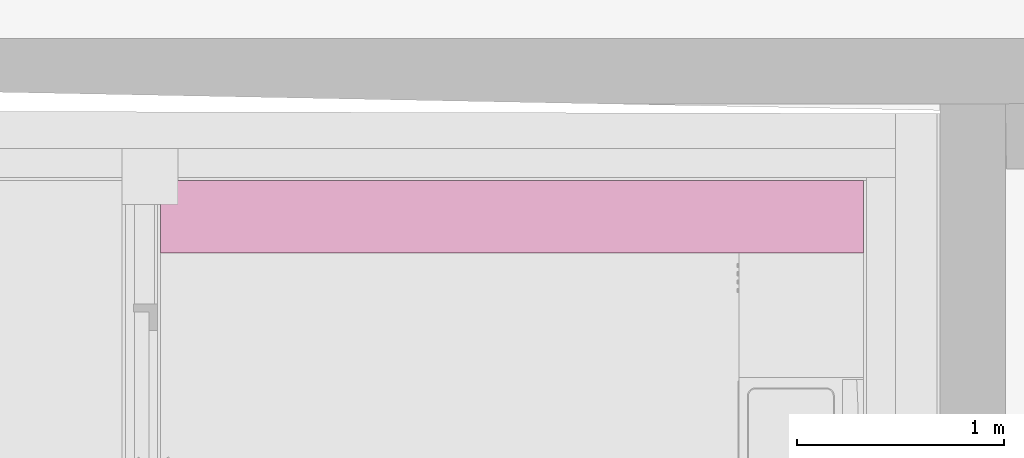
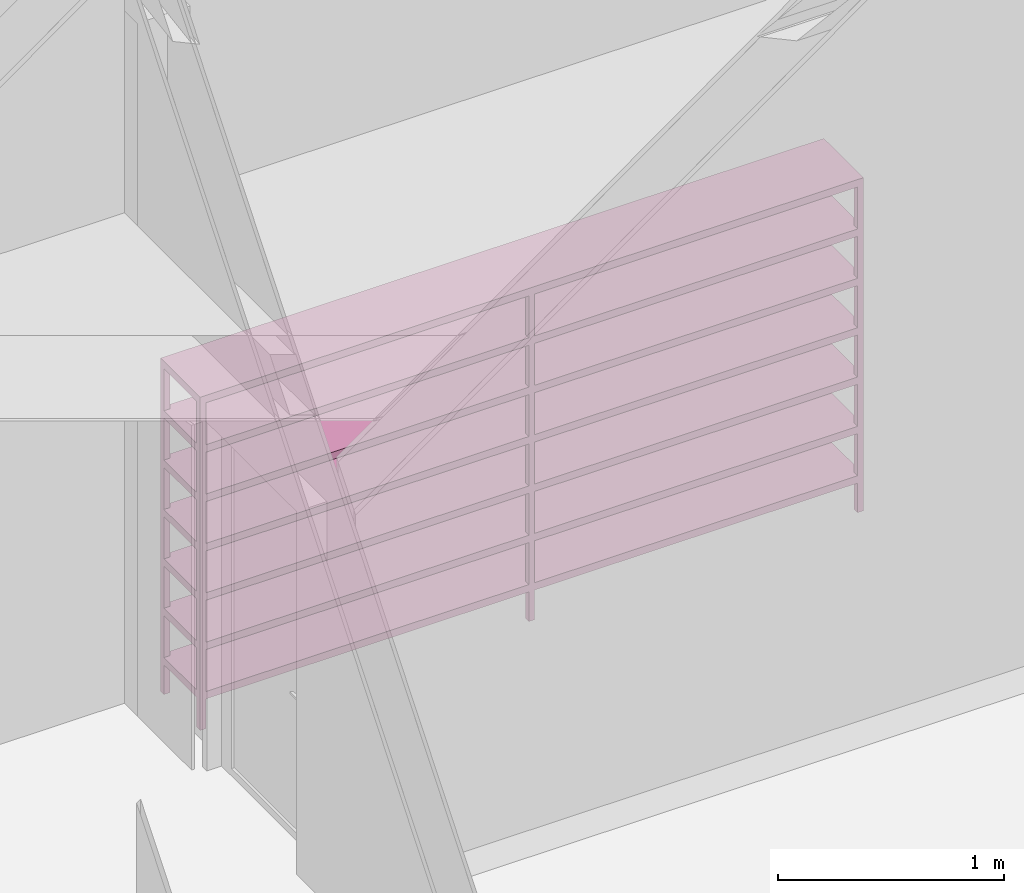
# One storey, part 23 of 24: 1 furnishing.
"""IFC2X3 building model written with IfcOpenShell, lengths in metres."""

import ifcopenshell
import ifcopenshell.guid

model = None  # the IFC model being written
_history = None  # IfcOwnerHistory: only IFC2X3 demands one
_inside = {}  # id of a spatial element -> (the spatial element, [elements in it])
_under = {}  # id of a project, library or spatial element -> (it, [spatial elements below it])
_declared = {}  # id of a project -> (the project, [libraries it declares])
_typed = {}  # id of a type object -> (the type object, [elements of that type])
_made_of = {}  # id of a material, layer set ... -> (it, [elements and type objects made of it])


def new_model(schema):
    """Start an empty IFC model of exactly this schema.

    Asked for "IFC4X3", IfcOpenShell would pick the latest addendum, in which some entities
    have other attributes; the version numbers below select the first issue.
    IFC2X3 requires an IfcOwnerHistory on every rooted entity: one is made here for all.
    """
    global model, _history
    if schema == "IFC4X3":
        model = ifcopenshell.file(schema_version=(4, 3, 0, 0))
    else:
        model = ifcopenshell.file(schema=schema)
    _inside.clear()
    _under.clear()
    _declared.clear()
    _typed.clear()
    _made_of.clear()
    _history = None
    if model.schema == "IFC2X3":
        org = make("IfcOrganization", Name="unknown")
        user = make(
            "IfcPersonAndOrganization",
            ThePerson=make("IfcPerson", FamilyName="unknown"),
            TheOrganization=org,
        )
        app = make(
            "IfcApplication",
            ApplicationDeveloper=org,
            Version="unknown",
            ApplicationFullName="unknown",
            ApplicationIdentifier="unknown",
        )
        _history = make(
            "IfcOwnerHistory",
            OwningUser=user,
            OwningApplication=app,
            ChangeAction="ADDED",
            CreationDate=0,
        )
    return model


def make(cls, **values):
    """One entity of the class cls with the attributes given. An attribute that is None is left unset."""
    return model.create_entity(
        cls, **{name: value for name, value in values.items() if value is not None}
    )


def entity(cls, *values):
    """Any entity or typed value of the class cls, its attributes in the order of the schema. None: left unset."""
    e = model.create_entity(cls)
    for i, value in enumerate(values):
        if value is not None:
            e[i] = value
    return e


def rooted(cls, **values):
    """An entity with a GlobalId (a new one), such as an element, a storey or a relation."""
    return make(cls, GlobalId=ifcopenshell.guid.new(), OwnerHistory=_history, **values)


def si_unit(unit_type, name, prefix=None):
    """IfcSIUnit, for example si_unit("LENGTHUNIT", "METRE", prefix="MILLI")."""
    return make("IfcSIUnit", UnitType=unit_type, Prefix=prefix, Name=name)


def converted_unit(unit_type, name, factor, base, dimensions=None, offset=None):
    """IfcConversionBasedUnit, such as the inch: factor (a typed value) times the base unit."""
    return make(
        "IfcConversionBasedUnit"
        if offset is None
        else "IfcConversionBasedUnitWithOffset",
        ConversionOffset=offset,
        Dimensions=None
        if dimensions is None
        else entity("IfcDimensionalExponents", *dimensions),
        UnitType=unit_type,
        Name=name,
        ConversionFactor=make(
            "IfcMeasureWithUnit", ValueComponent=factor, UnitComponent=base
        ),
    )


def derived_unit(unit_type, elements):
    """IfcDerivedUnit: a product of units, each with its exponent."""
    return make(
        "IfcDerivedUnit",
        Elements=[
            make("IfcDerivedUnitElement", Unit=unit, Exponent=power)
            for unit, power in elements
        ],
        UnitType=unit_type,
    )


def money_unit(currency):
    """IfcMonetaryUnit."""
    return make("IfcMonetaryUnit", Currency=currency)


def assignment(units):
    """IfcUnitAssignment: the units of a project."""
    return None if units is None else make("IfcUnitAssignment", Units=units)


def point(xyz):
    """IfcCartesianPoint."""
    return None if xyz is None else make("IfcCartesianPoint", Coordinates=xyz)


def direction(xyz):
    """IfcDirection."""
    return None if xyz is None else make("IfcDirection", DirectionRatios=xyz)


def frame(location, z_axis=None, x_axis=None):
    """IfcAxis2Placement3D, a coordinate frame: its origin and axes. An axis left out is left unset."""
    return make(
        "IfcAxis2Placement3D",
        Location=point(location),
        Axis=direction(z_axis),
        RefDirection=direction(x_axis),
    )


def origin_with_axes():
    """The frame at (0, 0, 0) with the z axis (0, 0, 1) and the x axis (1, 0, 0) written out."""
    return frame((0.0, 0.0, 0.0), z_axis=(0.0, 0.0, 1.0), x_axis=(1.0, 0.0, 0.0))


def place(relative_to, where):
    """IfcLocalPlacement: puts the frame where relative to a parent placement (None: the world)."""
    return make(
        "IfcLocalPlacement", PlacementRelTo=relative_to, RelativePlacement=where
    )


def context(
    kind, dimensions, precision=None, world=None, true_north=None, identifier=None
):
    """IfcGeometricRepresentationContext, for example the 3D "Model" context."""
    return make(
        "IfcGeometricRepresentationContext",
        ContextIdentifier=identifier,
        ContextType=kind,
        CoordinateSpaceDimension=dimensions,
        Precision=precision,
        WorldCoordinateSystem=world,
        TrueNorth=true_north,
    )


def subcontext(parent, identifier, kind, view, scale=None):
    """IfcGeometricRepresentationSubContext, for example "Body" below "Model"."""
    return make(
        "IfcGeometricRepresentationSubContext",
        ContextIdentifier=identifier,
        ContextType=kind,
        ParentContext=parent,
        TargetScale=scale,
        TargetView=view,
    )


def project(units=None, contexts=None):
    """IfcProject with its units and contexts."""
    return rooted(
        "IfcProject",
        Name="project",
        RepresentationContexts=contexts,
        UnitsInContext=assignment(units),
    )


def spatial(cls, under=None, at=None, **own):
    """A site, building, storey or space (cls), placed at a placement, below another one or the project."""
    s = rooted(cls, ObjectPlacement=at, **own)
    if under is not None:
        _under.setdefault(under.id(), (under, []))[1].append(s)
    return s


def faces_of(points, faces, orient=None, outer=None):
    """IfcFace entities. A face is a list of loops; a loop is a list of indices into points, from 0.

    orient and outer hold one flag for each loop. By default every Orientation is true, the
    first loop of a face is its IfcFaceOuterBound and the others are IfcFaceBound.
    """
    made = []
    for i, loops in enumerate(faces):
        bounds = []
        for j, loop in enumerate(loops):
            is_outer = j == 0 if outer is None else outer[i][j]
            bounds.append(
                make(
                    "IfcFaceOuterBound" if is_outer else "IfcFaceBound",
                    Bound=make("IfcPolyLoop", Polygon=[points[k] for k in loop]),
                    Orientation=True if orient is None else orient[i][j],
                )
            )
        made.append(make("IfcFace", Bounds=bounds))
    return made


def faceted_brep(points, faces, orient=None, outer=None, voids=None):
    """IfcFacetedBrep: a solid bounded by flat faces; with voids (closed shells), ...WithVoids."""
    shared = [point(p) for p in points]
    hull = make("IfcClosedShell", CfsFaces=faces_of(shared, faces, orient, outer))
    if voids is None:
        return make("IfcFacetedBrep", Outer=hull)
    return make(
        "IfcFacetedBrepWithVoids",
        Outer=hull,
        Voids=[
            make(cls, CfsFaces=faces_of(shared, fs, o, b)) for cls, fs, o, b in voids
        ],
    )


def shape(context_of_items, identifier, shape_type, items):
    """IfcShapeRepresentation: the items that make up one representation, for example the "Body"."""
    return make(
        "IfcShapeRepresentation",
        ContextOfItems=context_of_items,
        RepresentationIdentifier=identifier,
        RepresentationType=shape_type,
        Items=items,
    )


def made_of(thing, what):
    """Note that an element or type object is made of a material, layer set ...; save() writes the relation."""
    if what is not None:
        _made_of.setdefault(what.id(), (what, []))[1].append(thing)
    return thing


def type_object(cls, material=None, **own):
    """A type object (cls), such as IfcWallType, which elements share."""
    return made_of(rooted(cls, **own), material)


def element(
    cls,
    number,
    at=None,
    inside=None,
    cuts=None,
    type_object=None,
    material=None,
    context=None,
    identifier="Body",
    shape_type=None,
    held_by="IfcProductDefinitionShape",
    body=None,
    shapes=None,
    **own,
):
    """One element of the class cls, such as IfcWall. Its Tag is "e" and its number.

    at: its placement. inside: the storey or other place that contains it. cuts: it is an
    opening in that element (IfcRelVoidsElement). A single representation is given by context,
    identifier, shape_type and body (its items); several are given by shapes. held_by: the class
    of the entity that holds the representations. save() writes the other relations.
    """
    e = rooted(cls, Tag="e%d" % number, ObjectPlacement=at, **own)
    if body is not None:
        shapes = [shape(context, identifier, shape_type, body)]
    if shapes is not None:
        e.Representation = make(held_by, Representations=shapes)
    if inside is not None:
        _inside.setdefault(inside.id(), (inside, []))[1].append(e)
    if cuts is not None:
        rooted(
            "IfcRelVoidsElement", RelatingBuildingElement=cuts, RelatedOpeningElement=e
        )
    if type_object is not None:
        _typed.setdefault(type_object.id(), (type_object, []))[1].append(e)
    return made_of(e, material)


def aggregate(whole, parts):
    """IfcRelAggregates: a whole, such as a stair, and the parts it consists of."""
    return rooted("IfcRelAggregates", RelatingObject=whole, RelatedObjects=parts)


def save(model, path):
    """Write the relations noted so far, then the file.

    IfcRelAggregates (storeys below a building ...), IfcRelContainedInSpatialStructure (elements
    in a storey), IfcRelDefinesByType, IfcRelAssociatesMaterial and IfcRelDeclares: one each for
    every whole, place, type object, material and project.
    """
    for whole, parts in _under.values():
        aggregate(whole, parts)
    for where, things in _inside.values():
        rooted(
            "IfcRelContainedInSpatialStructure",
            RelatedElements=things,
            RelatingStructure=where,
        )
    for kind, things in _typed.values():
        rooted("IfcRelDefinesByType", RelatedObjects=things, RelatingType=kind)
    for what, things in _made_of.values():
        rooted("IfcRelAssociatesMaterial", RelatedObjects=things, RelatingMaterial=what)
    for by, libraries in _declared.values():
        rooted("IfcRelDeclares", RelatingContext=by, RelatedDefinitions=libraries)
    model.write(path)


model = new_model("IFC2X3")

# Units and contexts
model_context = context("Model", 3, precision=1e-05, world=origin_with_axes(), true_north=direction((0.0, 1.0)))
body_context = subcontext(model_context, "Body", "Model", "MODEL_VIEW")
ifc_project = project(units=[si_unit("LENGTHUNIT", "METRE"), si_unit("AREAUNIT", "SQUARE_METRE"), si_unit("VOLUMEUNIT", "CUBIC_METRE"), converted_unit("PLANEANGLEUNIT", "DEGREE", entity("IfcPlaneAngleMeasure", 0.0174532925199), si_unit("PLANEANGLEUNIT", "RADIAN"), dimensions=[0, 0, 0, 0, 0, 0, 0]), si_unit("SOLIDANGLEUNIT", "STERADIAN"), money_unit("CHF"), converted_unit("TIMEUNIT", "Year", entity("IfcTimeMeasure", 31556926.0), si_unit("TIMEUNIT", "SECOND"), dimensions=[0, 0, 1, 0, 0, 0, 0]), si_unit("MASSUNIT", "GRAM", prefix="KILO"), si_unit("THERMODYNAMICTEMPERATUREUNIT", "DEGREE_CELSIUS"), si_unit("LUMINOUSINTENSITYUNIT", "LUMEN"), si_unit("ENERGYUNIT", "JOULE", prefix="MEGA"), derived_unit("THERMALCONDUCTANCEUNIT", [(si_unit("POWERUNIT", "WATT"), 1), (si_unit("LENGTHUNIT", "METRE"), -1), (si_unit("THERMODYNAMICTEMPERATUREUNIT", "KELVIN"), -1)]), derived_unit("SPECIFICHEATCAPACITYUNIT", [(si_unit("ENERGYUNIT", "JOULE"), 1), (si_unit("MASSUNIT", "GRAM", prefix="KILO"), -1), (si_unit("THERMODYNAMICTEMPERATUREUNIT", "KELVIN"), -1)]), derived_unit("MASSDENSITYUNIT", [(si_unit("MASSUNIT", "GRAM", prefix="KILO"), 1), (si_unit("VOLUMEUNIT", "CUBIC_METRE"), -1)])], contexts=[model_context])

# Site, building, storey
site_placement = place(None, origin_with_axes())
site = spatial("IfcSite", under=ifc_project, at=site_placement, Name="Site", CompositionType="ELEMENT")
building_placement = place(site_placement, origin_with_axes())
building = spatial("IfcBuilding", under=site, at=building_placement, Name="Bâtiment", CompositionType="ELEMENT")
storey_placement = place(building_placement, origin_with_axes())
storey = spatial("IfcBuildingStorey", under=building, at=storey_placement, Name="Rez-de-chaussée", CompositionType="ELEMENT", Elevation=0.0)

# Furnishing
furniture_type = type_object("IfcFurnitureType", Name="Bibliothèque 02 24", AssemblyPlace="NOTDEFINED")
furnishing_placement = place(storey_placement, frame((27.7271417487, 16.0379346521, 0.16), z_axis=(0.0, 0.0, 1.0), x_axis=(-1.0, 0.0, 0.0)))
element("IfcFurnishingElement", 1, at=furnishing_placement, inside=storey, type_object=furniture_type, Name="MOBILIER-011", context=body_context, shape_type="Brep", body=[
    faceted_brep([(-0.03, 0.0, 0.0), (-0.03, 0.03, 0.0), (0.0, 0.03, 0.0), (0.0, 0.0, 0.0), (-0.03, 0.0, 1.78), (-0.03, 0.03, 1.78), (0.0, 0.03, 1.78), (0.0, 0.0, 1.78)], [[[0, 1, 2, 3]], [[0, 4, 5, 1]], [[1, 5, 6, 2]], [[2, 6, 7, 3]], [[3, 7, 4, 0]], [[7, 6, 5, 4]]]),
    faceted_brep([(-1.71, 0.0, 0.0), (-1.71, 0.03, 0.0), (-1.68, 0.03, 0.0), (-1.68, 0.0, 0.0), (-1.71, 0.0, 1.78), (-1.71, 0.03, 1.78), (-1.68, 0.03, 1.78), (-1.68, 0.0, 1.78)], [[[0, 1, 2, 3]], [[0, 4, 5, 1]], [[1, 5, 6, 2]], [[2, 6, 7, 3]], [[3, 7, 4, 0]], [[7, 6, 5, 4]]]),
    faceted_brep([(-3.39, 0.0, 0.0), (-3.39, 0.03, 0.0), (-3.36, 0.03, 0.0), (-3.36, 0.0, 0.0), (-3.39, 0.0, 1.78), (-3.39, 0.03, 1.78), (-3.36, 0.03, 1.78), (-3.36, 0.0, 1.78)], [[[0, 1, 2, 3]], [[0, 4, 5, 1]], [[1, 5, 6, 2]], [[2, 6, 7, 3]], [[3, 7, 4, 0]], [[7, 6, 5, 4]]]),
    faceted_brep([(-0.03, 0.32, 0.0), (-0.03, 0.35, 0.0), (0.0, 0.35, 0.0), (0.0, 0.32, 0.0), (-0.03, 0.32, 1.78), (-0.03, 0.35, 1.78), (0.0, 0.35, 1.78), (0.0, 0.32, 1.78)], [[[0, 1, 2, 3]], [[0, 4, 5, 1]], [[1, 5, 6, 2]], [[2, 6, 7, 3]], [[3, 7, 4, 0]], [[7, 6, 5, 4]]]),
    faceted_brep([(-1.71, 0.32, 0.0), (-1.71, 0.35, 0.0), (-1.68, 0.35, 0.0), (-1.68, 0.32, 0.0), (-1.71, 0.32, 1.78), (-1.71, 0.35, 1.78), (-1.68, 0.35, 1.78), (-1.68, 0.32, 1.78)], [[[0, 1, 2, 3]], [[0, 4, 5, 1]], [[1, 5, 6, 2]], [[2, 6, 7, 3]], [[3, 7, 4, 0]], [[7, 6, 5, 4]]]),
    faceted_brep([(-3.39, 0.32, 0.0), (-3.39, 0.35, 0.0), (-3.36, 0.35, 0.0), (-3.36, 0.32, 0.0), (-3.39, 0.32, 1.78), (-3.39, 0.35, 1.78), (-3.36, 0.35, 1.78), (-3.36, 0.32, 1.78)], [[[0, 1, 2, 3]], [[0, 4, 5, 1]], [[1, 5, 6, 2]], [[2, 6, 7, 3]], [[3, 7, 4, 0]], [[7, 6, 5, 4]]]),
    faceted_brep([(-0.03, 0.03, 0.16), (-0.03, 0.32, 0.16), (0.0, 0.32, 0.16), (0.0, 0.03, 0.16), (-0.03, 0.03, 0.18), (-0.03, 0.32, 0.18), (0.0, 0.32, 0.18), (0.0, 0.03, 0.18)], [[[0, 1, 2, 3]], [[0, 4, 5, 1]], [[1, 5, 6, 2]], [[2, 6, 7, 3]], [[3, 7, 4, 0]], [[7, 6, 5, 4]]]),
    faceted_brep([(-1.71, 0.03, 0.16), (-1.71, 0.32, 0.16), (-1.68, 0.32, 0.16), (-1.68, 0.03, 0.16), (-1.71, 0.03, 0.18), (-1.71, 0.32, 0.18), (-1.68, 0.32, 0.18), (-1.68, 0.03, 0.18)], [[[0, 1, 2, 3]], [[0, 4, 5, 1]], [[1, 5, 6, 2]], [[2, 6, 7, 3]], [[3, 7, 4, 0]], [[7, 6, 5, 4]]]),
    faceted_brep([(-3.39, 0.03, 0.16), (-3.39, 0.32, 0.16), (-3.36, 0.32, 0.16), (-3.36, 0.03, 0.16), (-3.39, 0.03, 0.18), (-3.39, 0.32, 0.18), (-3.36, 0.32, 0.18), (-3.36, 0.03, 0.18)], [[[0, 1, 2, 3]], [[0, 4, 5, 1]], [[1, 5, 6, 2]], [[2, 6, 7, 3]], [[3, 7, 4, 0]], [[7, 6, 5, 4]]]),
    faceted_brep([(-1.68, 0.0, 0.16), (-1.68, 0.03, 0.16), (-0.03, 0.03, 0.16), (-0.03, 0.0, 0.16), (-1.68, 0.0, 0.18), (-1.68, 0.03, 0.18), (-0.03, 0.03, 0.18), (-0.03, 0.0, 0.18)], [[[0, 1, 2, 3]], [[0, 4, 5, 1]], [[1, 5, 6, 2]], [[2, 6, 7, 3]], [[3, 7, 4, 0]], [[7, 6, 5, 4]]]),
    faceted_brep([(-3.36, 0.0, 0.16), (-3.36, 0.03, 0.16), (-1.71, 0.03, 0.16), (-1.71, 0.0, 0.16), (-3.36, 0.0, 0.18), (-3.36, 0.03, 0.18), (-1.71, 0.03, 0.18), (-1.71, 0.0, 0.18)], [[[0, 1, 2, 3]], [[0, 4, 5, 1]], [[1, 5, 6, 2]], [[2, 6, 7, 3]], [[3, 7, 4, 0]], [[7, 6, 5, 4]]]),
    faceted_brep([(-1.68, 0.32, 0.16), (-1.68, 0.35, 0.16), (-0.03, 0.35, 0.16), (-0.03, 0.32, 0.16), (-1.68, 0.32, 0.18), (-1.68, 0.35, 0.18), (-0.03, 0.35, 0.18), (-0.03, 0.32, 0.18)], [[[0, 1, 2, 3]], [[0, 4, 5, 1]], [[1, 5, 6, 2]], [[2, 6, 7, 3]], [[3, 7, 4, 0]], [[7, 6, 5, 4]]]),
    faceted_brep([(-3.36, 0.32, 0.16), (-3.36, 0.35, 0.16), (-1.71, 0.35, 0.16), (-1.71, 0.32, 0.16), (-3.36, 0.32, 0.18), (-3.36, 0.35, 0.18), (-1.71, 0.35, 0.18), (-1.71, 0.32, 0.18)], [[[0, 1, 2, 3]], [[0, 4, 5, 1]], [[1, 5, 6, 2]], [[2, 6, 7, 3]], [[3, 7, 4, 0]], [[7, 6, 5, 4]]]),
    faceted_brep([(-0.03, 0.03, 0.426666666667), (-0.03, 0.32, 0.426666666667), (0.0, 0.32, 0.426666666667), (0.0, 0.03, 0.426666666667), (-0.03, 0.03, 0.446666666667), (-0.03, 0.32, 0.446666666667), (0.0, 0.32, 0.446666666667), (0.0, 0.03, 0.446666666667)], [[[0, 1, 2, 3]], [[0, 4, 5, 1]], [[1, 5, 6, 2]], [[2, 6, 7, 3]], [[3, 7, 4, 0]], [[7, 6, 5, 4]]]),
    faceted_brep([(-1.71, 0.03, 0.426666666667), (-1.71, 0.32, 0.426666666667), (-1.68, 0.32, 0.426666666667), (-1.68, 0.03, 0.426666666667), (-1.71, 0.03, 0.446666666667), (-1.71, 0.32, 0.446666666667), (-1.68, 0.32, 0.446666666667), (-1.68, 0.03, 0.446666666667)], [[[0, 1, 2, 3]], [[0, 4, 5, 1]], [[1, 5, 6, 2]], [[2, 6, 7, 3]], [[3, 7, 4, 0]], [[7, 6, 5, 4]]]),
    faceted_brep([(-3.39, 0.03, 0.426666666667), (-3.39, 0.32, 0.426666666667), (-3.36, 0.32, 0.426666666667), (-3.36, 0.03, 0.426666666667), (-3.39, 0.03, 0.446666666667), (-3.39, 0.32, 0.446666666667), (-3.36, 0.32, 0.446666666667), (-3.36, 0.03, 0.446666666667)], [[[0, 1, 2, 3]], [[0, 4, 5, 1]], [[1, 5, 6, 2]], [[2, 6, 7, 3]], [[3, 7, 4, 0]], [[7, 6, 5, 4]]]),
    faceted_brep([(-1.68, 0.0, 0.426666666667), (-1.68, 0.03, 0.426666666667), (-0.03, 0.03, 0.426666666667), (-0.03, 0.0, 0.426666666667), (-1.68, 0.0, 0.446666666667), (-1.68, 0.03, 0.446666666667), (-0.03, 0.03, 0.446666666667), (-0.03, 0.0, 0.446666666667)], [[[0, 1, 2, 3]], [[0, 4, 5, 1]], [[1, 5, 6, 2]], [[2, 6, 7, 3]], [[3, 7, 4, 0]], [[7, 6, 5, 4]]]),
    faceted_brep([(-3.36, 0.0, 0.426666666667), (-3.36, 0.03, 0.426666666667), (-1.71, 0.03, 0.426666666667), (-1.71, 0.0, 0.426666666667), (-3.36, 0.0, 0.446666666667), (-3.36, 0.03, 0.446666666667), (-1.71, 0.03, 0.446666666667), (-1.71, 0.0, 0.446666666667)], [[[0, 1, 2, 3]], [[0, 4, 5, 1]], [[1, 5, 6, 2]], [[2, 6, 7, 3]], [[3, 7, 4, 0]], [[7, 6, 5, 4]]]),
    faceted_brep([(-1.68, 0.32, 0.426666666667), (-1.68, 0.35, 0.426666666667), (-0.03, 0.35, 0.426666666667), (-0.03, 0.32, 0.426666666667), (-1.68, 0.32, 0.446666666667), (-1.68, 0.35, 0.446666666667), (-0.03, 0.35, 0.446666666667), (-0.03, 0.32, 0.446666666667)], [[[0, 1, 2, 3]], [[0, 4, 5, 1]], [[1, 5, 6, 2]], [[2, 6, 7, 3]], [[3, 7, 4, 0]], [[7, 6, 5, 4]]]),
    faceted_brep([(-3.36, 0.32, 0.426666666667), (-3.36, 0.35, 0.426666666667), (-1.71, 0.35, 0.426666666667), (-1.71, 0.32, 0.426666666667), (-3.36, 0.32, 0.446666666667), (-3.36, 0.35, 0.446666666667), (-1.71, 0.35, 0.446666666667), (-1.71, 0.32, 0.446666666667)], [[[0, 1, 2, 3]], [[0, 4, 5, 1]], [[1, 5, 6, 2]], [[2, 6, 7, 3]], [[3, 7, 4, 0]], [[7, 6, 5, 4]]]),
    faceted_brep([(-0.03, 0.03, 0.693333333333), (-0.03, 0.32, 0.693333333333), (0.0, 0.32, 0.693333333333), (0.0, 0.03, 0.693333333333), (-0.03, 0.03, 0.713333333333), (-0.03, 0.32, 0.713333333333), (0.0, 0.32, 0.713333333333), (0.0, 0.03, 0.713333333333)], [[[0, 1, 2, 3]], [[0, 4, 5, 1]], [[1, 5, 6, 2]], [[2, 6, 7, 3]], [[3, 7, 4, 0]], [[7, 6, 5, 4]]]),
    faceted_brep([(-1.71, 0.03, 0.693333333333), (-1.71, 0.32, 0.693333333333), (-1.68, 0.32, 0.693333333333), (-1.68, 0.03, 0.693333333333), (-1.71, 0.03, 0.713333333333), (-1.71, 0.32, 0.713333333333), (-1.68, 0.32, 0.713333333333), (-1.68, 0.03, 0.713333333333)], [[[0, 1, 2, 3]], [[0, 4, 5, 1]], [[1, 5, 6, 2]], [[2, 6, 7, 3]], [[3, 7, 4, 0]], [[7, 6, 5, 4]]]),
    faceted_brep([(-3.39, 0.03, 0.693333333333), (-3.39, 0.32, 0.693333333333), (-3.36, 0.32, 0.693333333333), (-3.36, 0.03, 0.693333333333), (-3.39, 0.03, 0.713333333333), (-3.39, 0.32, 0.713333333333), (-3.36, 0.32, 0.713333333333), (-3.36, 0.03, 0.713333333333)], [[[0, 1, 2, 3]], [[0, 4, 5, 1]], [[1, 5, 6, 2]], [[2, 6, 7, 3]], [[3, 7, 4, 0]], [[7, 6, 5, 4]]]),
    faceted_brep([(-1.68, 0.0, 0.693333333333), (-1.68, 0.03, 0.693333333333), (-0.03, 0.03, 0.693333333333), (-0.03, 0.0, 0.693333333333), (-1.68, 0.0, 0.713333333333), (-1.68, 0.03, 0.713333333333), (-0.03, 0.03, 0.713333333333), (-0.03, 0.0, 0.713333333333)], [[[0, 1, 2, 3]], [[0, 4, 5, 1]], [[1, 5, 6, 2]], [[2, 6, 7, 3]], [[3, 7, 4, 0]], [[7, 6, 5, 4]]]),
    faceted_brep([(-3.36, 0.0, 0.693333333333), (-3.36, 0.03, 0.693333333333), (-1.71, 0.03, 0.693333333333), (-1.71, 0.0, 0.693333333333), (-3.36, 0.0, 0.713333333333), (-3.36, 0.03, 0.713333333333), (-1.71, 0.03, 0.713333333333), (-1.71, 0.0, 0.713333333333)], [[[0, 1, 2, 3]], [[0, 4, 5, 1]], [[1, 5, 6, 2]], [[2, 6, 7, 3]], [[3, 7, 4, 0]], [[7, 6, 5, 4]]]),
    faceted_brep([(-1.68, 0.32, 0.693333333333), (-1.68, 0.35, 0.693333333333), (-0.03, 0.35, 0.693333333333), (-0.03, 0.32, 0.693333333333), (-1.68, 0.32, 0.713333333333), (-1.68, 0.35, 0.713333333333), (-0.03, 0.35, 0.713333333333), (-0.03, 0.32, 0.713333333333)], [[[0, 1, 2, 3]], [[0, 4, 5, 1]], [[1, 5, 6, 2]], [[2, 6, 7, 3]], [[3, 7, 4, 0]], [[7, 6, 5, 4]]]),
    faceted_brep([(-3.36, 0.32, 0.693333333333), (-3.36, 0.35, 0.693333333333), (-1.71, 0.35, 0.693333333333), (-1.71, 0.32, 0.693333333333), (-3.36, 0.32, 0.713333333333), (-3.36, 0.35, 0.713333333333), (-1.71, 0.35, 0.713333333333), (-1.71, 0.32, 0.713333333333)], [[[0, 1, 2, 3]], [[0, 4, 5, 1]], [[1, 5, 6, 2]], [[2, 6, 7, 3]], [[3, 7, 4, 0]], [[7, 6, 5, 4]]]),
    faceted_brep([(-0.03, 0.03, 0.96), (-0.03, 0.32, 0.96), (0.0, 0.32, 0.96), (0.0, 0.03, 0.96), (-0.03, 0.03, 0.98), (-0.03, 0.32, 0.98), (0.0, 0.32, 0.98), (0.0, 0.03, 0.98)], [[[0, 1, 2, 3]], [[0, 4, 5, 1]], [[1, 5, 6, 2]], [[2, 6, 7, 3]], [[3, 7, 4, 0]], [[7, 6, 5, 4]]]),
    faceted_brep([(-1.71, 0.03, 0.96), (-1.71, 0.32, 0.96), (-1.68, 0.32, 0.96), (-1.68, 0.03, 0.96), (-1.71, 0.03, 0.98), (-1.71, 0.32, 0.98), (-1.68, 0.32, 0.98), (-1.68, 0.03, 0.98)], [[[0, 1, 2, 3]], [[0, 4, 5, 1]], [[1, 5, 6, 2]], [[2, 6, 7, 3]], [[3, 7, 4, 0]], [[7, 6, 5, 4]]]),
    faceted_brep([(-3.39, 0.03, 0.96), (-3.39, 0.32, 0.96), (-3.36, 0.32, 0.96), (-3.36, 0.03, 0.96), (-3.39, 0.03, 0.98), (-3.39, 0.32, 0.98), (-3.36, 0.32, 0.98), (-3.36, 0.03, 0.98)], [[[0, 1, 2, 3]], [[0, 4, 5, 1]], [[1, 5, 6, 2]], [[2, 6, 7, 3]], [[3, 7, 4, 0]], [[7, 6, 5, 4]]]),
    faceted_brep([(-1.68, 0.0, 0.96), (-1.68, 0.03, 0.96), (-0.03, 0.03, 0.96), (-0.03, 0.0, 0.96), (-1.68, 0.0, 0.98), (-1.68, 0.03, 0.98), (-0.03, 0.03, 0.98), (-0.03, 0.0, 0.98)], [[[0, 1, 2, 3]], [[0, 4, 5, 1]], [[1, 5, 6, 2]], [[2, 6, 7, 3]], [[3, 7, 4, 0]], [[7, 6, 5, 4]]]),
    faceted_brep([(-3.36, 0.0, 0.96), (-3.36, 0.03, 0.96), (-1.71, 0.03, 0.96), (-1.71, 0.0, 0.96), (-3.36, 0.0, 0.98), (-3.36, 0.03, 0.98), (-1.71, 0.03, 0.98), (-1.71, 0.0, 0.98)], [[[0, 1, 2, 3]], [[0, 4, 5, 1]], [[1, 5, 6, 2]], [[2, 6, 7, 3]], [[3, 7, 4, 0]], [[7, 6, 5, 4]]]),
    faceted_brep([(-1.68, 0.32, 0.96), (-1.68, 0.35, 0.96), (-0.03, 0.35, 0.96), (-0.03, 0.32, 0.96), (-1.68, 0.32, 0.98), (-1.68, 0.35, 0.98), (-0.03, 0.35, 0.98), (-0.03, 0.32, 0.98)], [[[0, 1, 2, 3]], [[0, 4, 5, 1]], [[1, 5, 6, 2]], [[2, 6, 7, 3]], [[3, 7, 4, 0]], [[7, 6, 5, 4]]]),
    faceted_brep([(-3.36, 0.32, 0.96), (-3.36, 0.35, 0.96), (-1.71, 0.35, 0.96), (-1.71, 0.32, 0.96), (-3.36, 0.32, 0.98), (-3.36, 0.35, 0.98), (-1.71, 0.35, 0.98), (-1.71, 0.32, 0.98)], [[[0, 1, 2, 3]], [[0, 4, 5, 1]], [[1, 5, 6, 2]], [[2, 6, 7, 3]], [[3, 7, 4, 0]], [[7, 6, 5, 4]]]),
    faceted_brep([(-0.03, 0.03, 1.22666666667), (-0.03, 0.32, 1.22666666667), (0.0, 0.32, 1.22666666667), (0.0, 0.03, 1.22666666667), (-0.03, 0.03, 1.24666666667), (-0.03, 0.32, 1.24666666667), (0.0, 0.32, 1.24666666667), (0.0, 0.03, 1.24666666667)], [[[0, 1, 2, 3]], [[0, 4, 5, 1]], [[1, 5, 6, 2]], [[2, 6, 7, 3]], [[3, 7, 4, 0]], [[7, 6, 5, 4]]]),
    faceted_brep([(-1.71, 0.03, 1.22666666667), (-1.71, 0.32, 1.22666666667), (-1.68, 0.32, 1.22666666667), (-1.68, 0.03, 1.22666666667), (-1.71, 0.03, 1.24666666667), (-1.71, 0.32, 1.24666666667), (-1.68, 0.32, 1.24666666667), (-1.68, 0.03, 1.24666666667)], [[[0, 1, 2, 3]], [[0, 4, 5, 1]], [[1, 5, 6, 2]], [[2, 6, 7, 3]], [[3, 7, 4, 0]], [[7, 6, 5, 4]]]),
    faceted_brep([(-3.39, 0.03, 1.22666666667), (-3.39, 0.32, 1.22666666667), (-3.36, 0.32, 1.22666666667), (-3.36, 0.03, 1.22666666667), (-3.39, 0.03, 1.24666666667), (-3.39, 0.32, 1.24666666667), (-3.36, 0.32, 1.24666666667), (-3.36, 0.03, 1.24666666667)], [[[0, 1, 2, 3]], [[0, 4, 5, 1]], [[1, 5, 6, 2]], [[2, 6, 7, 3]], [[3, 7, 4, 0]], [[7, 6, 5, 4]]]),
    faceted_brep([(-1.68, 0.0, 1.22666666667), (-1.68, 0.03, 1.22666666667), (-0.03, 0.03, 1.22666666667), (-0.03, 0.0, 1.22666666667), (-1.68, 0.0, 1.24666666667), (-1.68, 0.03, 1.24666666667), (-0.03, 0.03, 1.24666666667), (-0.03, 0.0, 1.24666666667)], [[[0, 1, 2, 3]], [[0, 4, 5, 1]], [[1, 5, 6, 2]], [[2, 6, 7, 3]], [[3, 7, 4, 0]], [[7, 6, 5, 4]]]),
    faceted_brep([(-3.36, 0.0, 1.22666666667), (-3.36, 0.03, 1.22666666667), (-1.71, 0.03, 1.22666666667), (-1.71, 0.0, 1.22666666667), (-3.36, 0.0, 1.24666666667), (-3.36, 0.03, 1.24666666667), (-1.71, 0.03, 1.24666666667), (-1.71, 0.0, 1.24666666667)], [[[0, 1, 2, 3]], [[0, 4, 5, 1]], [[1, 5, 6, 2]], [[2, 6, 7, 3]], [[3, 7, 4, 0]], [[7, 6, 5, 4]]]),
    faceted_brep([(-1.68, 0.32, 1.22666666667), (-1.68, 0.35, 1.22666666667), (-0.03, 0.35, 1.22666666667), (-0.03, 0.32, 1.22666666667), (-1.68, 0.32, 1.24666666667), (-1.68, 0.35, 1.24666666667), (-0.03, 0.35, 1.24666666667), (-0.03, 0.32, 1.24666666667)], [[[0, 1, 2, 3]], [[0, 4, 5, 1]], [[1, 5, 6, 2]], [[2, 6, 7, 3]], [[3, 7, 4, 0]], [[7, 6, 5, 4]]]),
    faceted_brep([(-3.36, 0.32, 1.22666666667), (-3.36, 0.35, 1.22666666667), (-1.71, 0.35, 1.22666666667), (-1.71, 0.32, 1.22666666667), (-3.36, 0.32, 1.24666666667), (-3.36, 0.35, 1.24666666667), (-1.71, 0.35, 1.24666666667), (-1.71, 0.32, 1.24666666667)], [[[0, 1, 2, 3]], [[0, 4, 5, 1]], [[1, 5, 6, 2]], [[2, 6, 7, 3]], [[3, 7, 4, 0]], [[7, 6, 5, 4]]]),
    faceted_brep([(-0.03, 0.03, 1.49333333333), (-0.03, 0.32, 1.49333333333), (0.0, 0.32, 1.49333333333), (0.0, 0.03, 1.49333333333), (-0.03, 0.03, 1.51333333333), (-0.03, 0.32, 1.51333333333), (0.0, 0.32, 1.51333333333), (0.0, 0.03, 1.51333333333)], [[[0, 1, 2, 3]], [[0, 4, 5, 1]], [[1, 5, 6, 2]], [[2, 6, 7, 3]], [[3, 7, 4, 0]], [[7, 6, 5, 4]]]),
    faceted_brep([(-1.71, 0.03, 1.49333333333), (-1.71, 0.32, 1.49333333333), (-1.68, 0.32, 1.49333333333), (-1.68, 0.03, 1.49333333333), (-1.71, 0.03, 1.51333333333), (-1.71, 0.32, 1.51333333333), (-1.68, 0.32, 1.51333333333), (-1.68, 0.03, 1.51333333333)], [[[0, 1, 2, 3]], [[0, 4, 5, 1]], [[1, 5, 6, 2]], [[2, 6, 7, 3]], [[3, 7, 4, 0]], [[7, 6, 5, 4]]]),
    faceted_brep([(-3.39, 0.03, 1.49333333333), (-3.39, 0.32, 1.49333333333), (-3.36, 0.32, 1.49333333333), (-3.36, 0.03, 1.49333333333), (-3.39, 0.03, 1.51333333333), (-3.39, 0.32, 1.51333333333), (-3.36, 0.32, 1.51333333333), (-3.36, 0.03, 1.51333333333)], [[[0, 1, 2, 3]], [[0, 4, 5, 1]], [[1, 5, 6, 2]], [[2, 6, 7, 3]], [[3, 7, 4, 0]], [[7, 6, 5, 4]]]),
    faceted_brep([(-1.68, 0.0, 1.49333333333), (-1.68, 0.03, 1.49333333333), (-0.03, 0.03, 1.49333333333), (-0.03, 0.0, 1.49333333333), (-1.68, 0.0, 1.51333333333), (-1.68, 0.03, 1.51333333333), (-0.03, 0.03, 1.51333333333), (-0.03, 0.0, 1.51333333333)], [[[0, 1, 2, 3]], [[0, 4, 5, 1]], [[1, 5, 6, 2]], [[2, 6, 7, 3]], [[3, 7, 4, 0]], [[7, 6, 5, 4]]]),
    faceted_brep([(-3.36, 0.0, 1.49333333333), (-3.36, 0.03, 1.49333333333), (-1.71, 0.03, 1.49333333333), (-1.71, 0.0, 1.49333333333), (-3.36, 0.0, 1.51333333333), (-3.36, 0.03, 1.51333333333), (-1.71, 0.03, 1.51333333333), (-1.71, 0.0, 1.51333333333)], [[[0, 1, 2, 3]], [[0, 4, 5, 1]], [[1, 5, 6, 2]], [[2, 6, 7, 3]], [[3, 7, 4, 0]], [[7, 6, 5, 4]]]),
    faceted_brep([(-1.68, 0.32, 1.49333333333), (-1.68, 0.35, 1.49333333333), (-0.03, 0.35, 1.49333333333), (-0.03, 0.32, 1.49333333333), (-1.68, 0.32, 1.51333333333), (-1.68, 0.35, 1.51333333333), (-0.03, 0.35, 1.51333333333), (-0.03, 0.32, 1.51333333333)], [[[0, 1, 2, 3]], [[0, 4, 5, 1]], [[1, 5, 6, 2]], [[2, 6, 7, 3]], [[3, 7, 4, 0]], [[7, 6, 5, 4]]]),
    faceted_brep([(-3.36, 0.32, 1.49333333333), (-3.36, 0.35, 1.49333333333), (-1.71, 0.35, 1.49333333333), (-1.71, 0.32, 1.49333333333), (-3.36, 0.32, 1.51333333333), (-3.36, 0.35, 1.51333333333), (-1.71, 0.35, 1.51333333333), (-1.71, 0.32, 1.51333333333)], [[[0, 1, 2, 3]], [[0, 4, 5, 1]], [[1, 5, 6, 2]], [[2, 6, 7, 3]], [[3, 7, 4, 0]], [[7, 6, 5, 4]]]),
    faceted_brep([(-0.03, 0.03, 1.76), (-0.03, 0.32, 1.76), (0.0, 0.32, 1.76), (0.0, 0.03, 1.76), (-0.03, 0.03, 1.78), (-0.03, 0.32, 1.78), (0.0, 0.32, 1.78), (0.0, 0.03, 1.78)], [[[0, 1, 2, 3]], [[0, 4, 5, 1]], [[1, 5, 6, 2]], [[2, 6, 7, 3]], [[3, 7, 4, 0]], [[7, 6, 5, 4]]]),
    faceted_brep([(-1.71, 0.03, 1.76), (-1.71, 0.32, 1.76), (-1.68, 0.32, 1.76), (-1.68, 0.03, 1.76), (-1.71, 0.03, 1.78), (-1.71, 0.32, 1.78), (-1.68, 0.32, 1.78), (-1.68, 0.03, 1.78)], [[[0, 1, 2, 3]], [[0, 4, 5, 1]], [[1, 5, 6, 2]], [[2, 6, 7, 3]], [[3, 7, 4, 0]], [[7, 6, 5, 4]]]),
    faceted_brep([(-3.39, 0.03, 1.76), (-3.39, 0.32, 1.76), (-3.36, 0.32, 1.76), (-3.36, 0.03, 1.76), (-3.39, 0.03, 1.78), (-3.39, 0.32, 1.78), (-3.36, 0.32, 1.78), (-3.36, 0.03, 1.78)], [[[0, 1, 2, 3]], [[0, 4, 5, 1]], [[1, 5, 6, 2]], [[2, 6, 7, 3]], [[3, 7, 4, 0]], [[7, 6, 5, 4]]]),
    faceted_brep([(-1.68, 0.0, 1.76), (-1.68, 0.03, 1.76), (-0.03, 0.03, 1.76), (-0.03, 0.0, 1.76), (-1.68, 0.0, 1.78), (-1.68, 0.03, 1.78), (-0.03, 0.03, 1.78), (-0.03, 0.0, 1.78)], [[[0, 1, 2, 3]], [[0, 4, 5, 1]], [[1, 5, 6, 2]], [[2, 6, 7, 3]], [[3, 7, 4, 0]], [[7, 6, 5, 4]]]),
    faceted_brep([(-3.36, 0.0, 1.76), (-3.36, 0.03, 1.76), (-1.71, 0.03, 1.76), (-1.71, 0.0, 1.76), (-3.36, 0.0, 1.78), (-3.36, 0.03, 1.78), (-1.71, 0.03, 1.78), (-1.71, 0.0, 1.78)], [[[0, 1, 2, 3]], [[0, 4, 5, 1]], [[1, 5, 6, 2]], [[2, 6, 7, 3]], [[3, 7, 4, 0]], [[7, 6, 5, 4]]]),
    faceted_brep([(-1.68, 0.32, 1.76), (-1.68, 0.35, 1.76), (-0.03, 0.35, 1.76), (-0.03, 0.32, 1.76), (-1.68, 0.32, 1.78), (-1.68, 0.35, 1.78), (-0.03, 0.35, 1.78), (-0.03, 0.32, 1.78)], [[[0, 1, 2, 3]], [[0, 4, 5, 1]], [[1, 5, 6, 2]], [[2, 6, 7, 3]], [[3, 7, 4, 0]], [[7, 6, 5, 4]]]),
    faceted_brep([(-3.36, 0.32, 1.76), (-3.36, 0.35, 1.76), (-1.71, 0.35, 1.76), (-1.71, 0.32, 1.76), (-3.36, 0.32, 1.78), (-3.36, 0.35, 1.78), (-1.71, 0.35, 1.78), (-1.71, 0.32, 1.78)], [[[0, 1, 2, 3]], [[0, 4, 5, 1]], [[1, 5, 6, 2]], [[2, 6, 7, 3]], [[3, 7, 4, 0]], [[7, 6, 5, 4]]]),
    faceted_brep([(-3.39, 0.0, 1.78), (-3.39, 0.35, 1.78), (0.0, 0.35, 1.78), (0.0, 0.0, 1.78), (-3.39, 0.0, 1.8), (-3.39, 0.35, 1.8), (0.0, 0.35, 1.8), (0.0, 0.0, 1.8)], [[[0, 1, 2, 3]], [[0, 4, 5, 1]], [[1, 5, 6, 2]], [[2, 6, 7, 3]], [[3, 7, 4, 0]], [[7, 6, 5, 4]]]),
    faceted_brep([(0.0, 0.03, 0.18), (0.0, 0.03, 0.2), (-0.03, 0.03, 0.2), (-0.03, 0.03, 0.18), (0.0, 0.32, 0.18), (0.0, 0.32, 0.2), (-0.03, 0.32, 0.2), (-0.03, 0.35, 0.2), (-1.68, 0.35, 0.2), (-1.68, 0.32, 0.2), (-1.71, 0.32, 0.2), (-1.71, 0.35, 0.2), (-3.36, 0.35, 0.2), (-3.36, 0.32, 0.2), (-3.39, 0.32, 0.2), (-3.39, 0.03, 0.2), (-3.36, 0.03, 0.2), (-3.36, 0.0, 0.2), (-1.71, 0.0, 0.2), (-1.71, 0.03, 0.2), (-1.68, 0.03, 0.2), (-1.68, 0.0, 0.2), (-0.03, 0.0, 0.2), (-0.03, 0.0, 0.18), (-1.68, 0.0, 0.18), (-1.68, 0.03, 0.18), (-1.71, 0.03, 0.18), (-1.71, 0.0, 0.18), (-3.36, 0.0, 0.18), (-3.36, 0.03, 0.18), (-3.39, 0.03, 0.18), (-3.39, 0.32, 0.18), (-3.36, 0.32, 0.18), (-3.36, 0.35, 0.18), (-1.71, 0.35, 0.18), (-1.71, 0.32, 0.18), (-1.68, 0.32, 0.18), (-1.68, 0.35, 0.18), (-0.03, 0.35, 0.18), (-0.03, 0.32, 0.18)], [[[0, 1, 2, 3]], [[4, 5, 1, 0]], [[1, 5, 6, 7, 8, 9, 10, 11, 12, 13, 14, 15, 16, 17, 18, 19, 20, 21, 22, 2]], [[3, 2, 22, 23]], [[0, 3, 23, 24, 25, 26, 27, 28, 29, 30, 31, 32, 33, 34, 35, 36, 37, 38, 39, 4]], [[39, 6, 5, 4]], [[38, 7, 6, 39]], [[37, 8, 7, 38]], [[36, 9, 8, 37]], [[35, 10, 9, 36]], [[34, 11, 10, 35]], [[33, 12, 11, 34]], [[32, 13, 12, 33]], [[31, 14, 13, 32]], [[30, 15, 14, 31]], [[29, 16, 15, 30]], [[28, 17, 16, 29]], [[27, 18, 17, 28]], [[26, 19, 18, 27]], [[25, 20, 19, 26]], [[24, 21, 20, 25]], [[23, 22, 21, 24]]]),
    faceted_brep([(0.0, 0.03, 0.446666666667), (0.0, 0.03, 0.466666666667), (-0.03, 0.03, 0.466666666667), (-0.03, 0.03, 0.446666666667), (0.0, 0.32, 0.446666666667), (0.0, 0.32, 0.466666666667), (-0.03, 0.32, 0.466666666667), (-0.03, 0.35, 0.466666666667), (-1.68, 0.35, 0.466666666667), (-1.68, 0.32, 0.466666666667), (-1.71, 0.32, 0.466666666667), (-1.71, 0.35, 0.466666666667), (-3.36, 0.35, 0.466666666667), (-3.36, 0.32, 0.466666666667), (-3.39, 0.32, 0.466666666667), (-3.39, 0.03, 0.466666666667), (-3.36, 0.03, 0.466666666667), (-3.36, 0.0, 0.466666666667), (-1.71, 0.0, 0.466666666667), (-1.71, 0.03, 0.466666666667), (-1.68, 0.03, 0.466666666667), (-1.68, 0.0, 0.466666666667), (-0.03, 0.0, 0.466666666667), (-0.03, 0.0, 0.446666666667), (-1.68, 0.0, 0.446666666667), (-1.68, 0.03, 0.446666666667), (-1.71, 0.03, 0.446666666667), (-1.71, 0.0, 0.446666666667), (-3.36, 0.0, 0.446666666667), (-3.36, 0.03, 0.446666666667), (-3.39, 0.03, 0.446666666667), (-3.39, 0.32, 0.446666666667), (-3.36, 0.32, 0.446666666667), (-3.36, 0.35, 0.446666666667), (-1.71, 0.35, 0.446666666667), (-1.71, 0.32, 0.446666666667), (-1.68, 0.32, 0.446666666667), (-1.68, 0.35, 0.446666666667), (-0.03, 0.35, 0.446666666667), (-0.03, 0.32, 0.446666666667)], [[[0, 1, 2, 3]], [[4, 5, 1, 0]], [[1, 5, 6, 7, 8, 9, 10, 11, 12, 13, 14, 15, 16, 17, 18, 19, 20, 21, 22, 2]], [[3, 2, 22, 23]], [[0, 3, 23, 24, 25, 26, 27, 28, 29, 30, 31, 32, 33, 34, 35, 36, 37, 38, 39, 4]], [[39, 6, 5, 4]], [[38, 7, 6, 39]], [[37, 8, 7, 38]], [[36, 9, 8, 37]], [[35, 10, 9, 36]], [[34, 11, 10, 35]], [[33, 12, 11, 34]], [[32, 13, 12, 33]], [[31, 14, 13, 32]], [[30, 15, 14, 31]], [[29, 16, 15, 30]], [[28, 17, 16, 29]], [[27, 18, 17, 28]], [[26, 19, 18, 27]], [[25, 20, 19, 26]], [[24, 21, 20, 25]], [[23, 22, 21, 24]]]),
    faceted_brep([(0.0, 0.03, 0.713333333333), (0.0, 0.03, 0.733333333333), (-0.03, 0.03, 0.733333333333), (-0.03, 0.03, 0.713333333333), (0.0, 0.32, 0.713333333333), (0.0, 0.32, 0.733333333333), (-0.03, 0.32, 0.733333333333), (-0.03, 0.35, 0.733333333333), (-1.68, 0.35, 0.733333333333), (-1.68, 0.32, 0.733333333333), (-1.71, 0.32, 0.733333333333), (-1.71, 0.35, 0.733333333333), (-3.36, 0.35, 0.733333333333), (-3.36, 0.32, 0.733333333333), (-3.39, 0.32, 0.733333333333), (-3.39, 0.03, 0.733333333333), (-3.36, 0.03, 0.733333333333), (-3.36, 0.0, 0.733333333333), (-1.71, 0.0, 0.733333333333), (-1.71, 0.03, 0.733333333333), (-1.68, 0.03, 0.733333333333), (-1.68, 0.0, 0.733333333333), (-0.03, 0.0, 0.733333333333), (-0.03, 0.0, 0.713333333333), (-1.68, 0.0, 0.713333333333), (-1.68, 0.03, 0.713333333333), (-1.71, 0.03, 0.713333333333), (-1.71, 0.0, 0.713333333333), (-3.36, 0.0, 0.713333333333), (-3.36, 0.03, 0.713333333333), (-3.39, 0.03, 0.713333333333), (-3.39, 0.32, 0.713333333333), (-3.36, 0.32, 0.713333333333), (-3.36, 0.35, 0.713333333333), (-1.71, 0.35, 0.713333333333), (-1.71, 0.32, 0.713333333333), (-1.68, 0.32, 0.713333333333), (-1.68, 0.35, 0.713333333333), (-0.03, 0.35, 0.713333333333), (-0.03, 0.32, 0.713333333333)], [[[0, 1, 2, 3]], [[4, 5, 1, 0]], [[1, 5, 6, 7, 8, 9, 10, 11, 12, 13, 14, 15, 16, 17, 18, 19, 20, 21, 22, 2]], [[3, 2, 22, 23]], [[0, 3, 23, 24, 25, 26, 27, 28, 29, 30, 31, 32, 33, 34, 35, 36, 37, 38, 39, 4]], [[39, 6, 5, 4]], [[38, 7, 6, 39]], [[37, 8, 7, 38]], [[36, 9, 8, 37]], [[35, 10, 9, 36]], [[34, 11, 10, 35]], [[33, 12, 11, 34]], [[32, 13, 12, 33]], [[31, 14, 13, 32]], [[30, 15, 14, 31]], [[29, 16, 15, 30]], [[28, 17, 16, 29]], [[27, 18, 17, 28]], [[26, 19, 18, 27]], [[25, 20, 19, 26]], [[24, 21, 20, 25]], [[23, 22, 21, 24]]]),
    faceted_brep([(0.0, 0.03, 0.98), (0.0, 0.03, 1.0), (-0.03, 0.03, 1.0), (-0.03, 0.03, 0.98), (0.0, 0.32, 0.98), (0.0, 0.32, 1.0), (-0.03, 0.32, 1.0), (-0.03, 0.35, 1.0), (-1.68, 0.35, 1.0), (-1.68, 0.32, 1.0), (-1.71, 0.32, 1.0), (-1.71, 0.35, 1.0), (-3.36, 0.35, 1.0), (-3.36, 0.32, 1.0), (-3.39, 0.32, 1.0), (-3.39, 0.03, 1.0), (-3.36, 0.03, 1.0), (-3.36, 0.0, 1.0), (-1.71, 0.0, 1.0), (-1.71, 0.03, 1.0), (-1.68, 0.03, 1.0), (-1.68, 0.0, 1.0), (-0.03, 0.0, 1.0), (-0.03, 0.0, 0.98), (-1.68, 0.0, 0.98), (-1.68, 0.03, 0.98), (-1.71, 0.03, 0.98), (-1.71, 0.0, 0.98), (-3.36, 0.0, 0.98), (-3.36, 0.03, 0.98), (-3.39, 0.03, 0.98), (-3.39, 0.32, 0.98), (-3.36, 0.32, 0.98), (-3.36, 0.35, 0.98), (-1.71, 0.35, 0.98), (-1.71, 0.32, 0.98), (-1.68, 0.32, 0.98), (-1.68, 0.35, 0.98), (-0.03, 0.35, 0.98), (-0.03, 0.32, 0.98)], [[[0, 1, 2, 3]], [[4, 5, 1, 0]], [[1, 5, 6, 7, 8, 9, 10, 11, 12, 13, 14, 15, 16, 17, 18, 19, 20, 21, 22, 2]], [[3, 2, 22, 23]], [[0, 3, 23, 24, 25, 26, 27, 28, 29, 30, 31, 32, 33, 34, 35, 36, 37, 38, 39, 4]], [[39, 6, 5, 4]], [[38, 7, 6, 39]], [[37, 8, 7, 38]], [[36, 9, 8, 37]], [[35, 10, 9, 36]], [[34, 11, 10, 35]], [[33, 12, 11, 34]], [[32, 13, 12, 33]], [[31, 14, 13, 32]], [[30, 15, 14, 31]], [[29, 16, 15, 30]], [[28, 17, 16, 29]], [[27, 18, 17, 28]], [[26, 19, 18, 27]], [[25, 20, 19, 26]], [[24, 21, 20, 25]], [[23, 22, 21, 24]]]),
    faceted_brep([(0.0, 0.03, 1.24666666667), (0.0, 0.03, 1.26666666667), (-0.03, 0.03, 1.26666666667), (-0.03, 0.03, 1.24666666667), (0.0, 0.32, 1.24666666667), (0.0, 0.32, 1.26666666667), (-0.03, 0.32, 1.26666666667), (-0.03, 0.35, 1.26666666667), (-1.68, 0.35, 1.26666666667), (-1.68, 0.32, 1.26666666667), (-1.71, 0.32, 1.26666666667), (-1.71, 0.35, 1.26666666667), (-3.36, 0.35, 1.26666666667), (-3.36, 0.32, 1.26666666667), (-3.39, 0.32, 1.26666666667), (-3.39, 0.03, 1.26666666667), (-3.36, 0.03, 1.26666666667), (-3.36, 0.0, 1.26666666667), (-1.71, 0.0, 1.26666666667), (-1.71, 0.03, 1.26666666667), (-1.68, 0.03, 1.26666666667), (-1.68, 0.0, 1.26666666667), (-0.03, 0.0, 1.26666666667), (-0.03, 0.0, 1.24666666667), (-1.68, 0.0, 1.24666666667), (-1.68, 0.03, 1.24666666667), (-1.71, 0.03, 1.24666666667), (-1.71, 0.0, 1.24666666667), (-3.36, 0.0, 1.24666666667), (-3.36, 0.03, 1.24666666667), (-3.39, 0.03, 1.24666666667), (-3.39, 0.32, 1.24666666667), (-3.36, 0.32, 1.24666666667), (-3.36, 0.35, 1.24666666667), (-1.71, 0.35, 1.24666666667), (-1.71, 0.32, 1.24666666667), (-1.68, 0.32, 1.24666666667), (-1.68, 0.35, 1.24666666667), (-0.03, 0.35, 1.24666666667), (-0.03, 0.32, 1.24666666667)], [[[0, 1, 2, 3]], [[4, 5, 1, 0]], [[1, 5, 6, 7, 8, 9, 10, 11, 12, 13, 14, 15, 16, 17, 18, 19, 20, 21, 22, 2]], [[3, 2, 22, 23]], [[0, 3, 23, 24, 25, 26, 27, 28, 29, 30, 31, 32, 33, 34, 35, 36, 37, 38, 39, 4]], [[39, 6, 5, 4]], [[38, 7, 6, 39]], [[37, 8, 7, 38]], [[36, 9, 8, 37]], [[35, 10, 9, 36]], [[34, 11, 10, 35]], [[33, 12, 11, 34]], [[32, 13, 12, 33]], [[31, 14, 13, 32]], [[30, 15, 14, 31]], [[29, 16, 15, 30]], [[28, 17, 16, 29]], [[27, 18, 17, 28]], [[26, 19, 18, 27]], [[25, 20, 19, 26]], [[24, 21, 20, 25]], [[23, 22, 21, 24]]]),
    faceted_brep([(0.0, 0.03, 1.51333333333), (0.0, 0.03, 1.53333333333), (-0.03, 0.03, 1.53333333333), (-0.03, 0.03, 1.51333333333), (0.0, 0.32, 1.51333333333), (0.0, 0.32, 1.53333333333), (-0.03, 0.32, 1.53333333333), (-0.03, 0.35, 1.53333333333), (-1.68, 0.35, 1.53333333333), (-1.68, 0.32, 1.53333333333), (-1.71, 0.32, 1.53333333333), (-1.71, 0.35, 1.53333333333), (-3.36, 0.35, 1.53333333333), (-3.36, 0.32, 1.53333333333), (-3.39, 0.32, 1.53333333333), (-3.39, 0.03, 1.53333333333), (-3.36, 0.03, 1.53333333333), (-3.36, 0.0, 1.53333333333), (-1.71, 0.0, 1.53333333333), (-1.71, 0.03, 1.53333333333), (-1.68, 0.03, 1.53333333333), (-1.68, 0.0, 1.53333333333), (-0.03, 0.0, 1.53333333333), (-0.03, 0.0, 1.51333333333), (-1.68, 0.0, 1.51333333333), (-1.68, 0.03, 1.51333333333), (-1.71, 0.03, 1.51333333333), (-1.71, 0.0, 1.51333333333), (-3.36, 0.0, 1.51333333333), (-3.36, 0.03, 1.51333333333), (-3.39, 0.03, 1.51333333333), (-3.39, 0.32, 1.51333333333), (-3.36, 0.32, 1.51333333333), (-3.36, 0.35, 1.51333333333), (-1.71, 0.35, 1.51333333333), (-1.71, 0.32, 1.51333333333), (-1.68, 0.32, 1.51333333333), (-1.68, 0.35, 1.51333333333), (-0.03, 0.35, 1.51333333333), (-0.03, 0.32, 1.51333333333)], [[[0, 1, 2, 3]], [[4, 5, 1, 0]], [[1, 5, 6, 7, 8, 9, 10, 11, 12, 13, 14, 15, 16, 17, 18, 19, 20, 21, 22, 2]], [[3, 2, 22, 23]], [[0, 3, 23, 24, 25, 26, 27, 28, 29, 30, 31, 32, 33, 34, 35, 36, 37, 38, 39, 4]], [[39, 6, 5, 4]], [[38, 7, 6, 39]], [[37, 8, 7, 38]], [[36, 9, 8, 37]], [[35, 10, 9, 36]], [[34, 11, 10, 35]], [[33, 12, 11, 34]], [[32, 13, 12, 33]], [[31, 14, 13, 32]], [[30, 15, 14, 31]], [[29, 16, 15, 30]], [[28, 17, 16, 29]], [[27, 18, 17, 28]], [[26, 19, 18, 27]], [[25, 20, 19, 26]], [[24, 21, 20, 25]], [[23, 22, 21, 24]]]),
])

save(model, "model.ifc")
